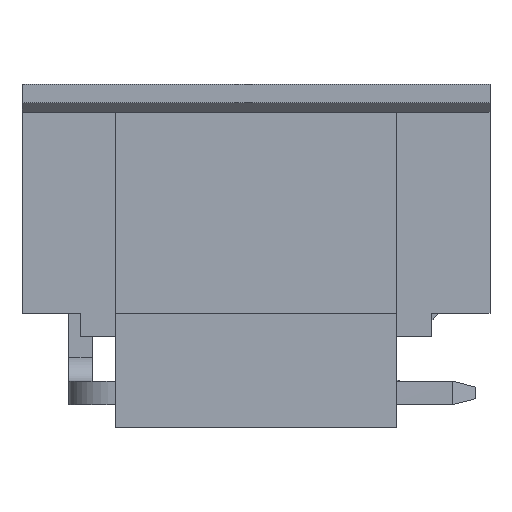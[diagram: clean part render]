
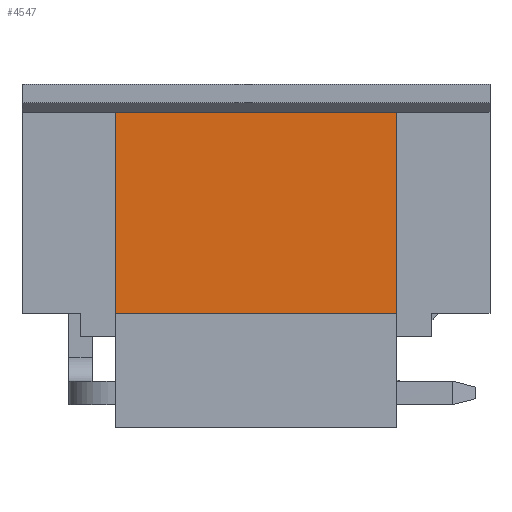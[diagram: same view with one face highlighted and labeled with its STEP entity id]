
A CAD part, front view. The second image highlights one B-rep face of the part: STEP entity #4547.
In plain terms, the highlighted free-form (B-spline) face has degree [1, 1] with [2, 2] control points.
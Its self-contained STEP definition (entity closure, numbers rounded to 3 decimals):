
#342 = B_SPLINE_SURFACE_WITH_KNOTS('',1,1,(
    (#343,#344)
    ,(#345,#346)),.UNSPECIFIED.,.F.,.F.,.F.,(2,2),(2,2),(0.,1.),(0.,1.),
  .PIECEWISE_BEZIER_KNOTS.);
#343 = CARTESIAN_POINT('',(-6.,5.028,8.038));
#344 = CARTESIAN_POINT('',(-6.,-12.248,8.038));
#345 = CARTESIAN_POINT('',(-6.,5.028,-9.238));
#346 = CARTESIAN_POINT('',(-6.,-12.248,-9.238));
#4173 = B_SPLINE_SURFACE_WITH_KNOTS('',1,1,(
    (#4174,#4175)
    ,(#4176,#4177
    )),.UNSPECIFIED.,.F.,.F.,.F.,(2,2),(2,2),(0.,1.),(0.,1.),
  .PIECEWISE_BEZIER_KNOTS.);
#4174 = CARTESIAN_POINT('',(10.371,6.221,6.15));
#4175 = CARTESIAN_POINT('',(-10.371,6.221,6.15));
#4176 = CARTESIAN_POINT('',(10.371,-14.521,6.15));
#4177 = CARTESIAN_POINT('',(-10.371,-14.521,6.15));
#4289 = EDGE_CURVE('',#4290,#4292,#4294,.T.);
#4290 = VERTEX_POINT('',#4291);
#4291 = CARTESIAN_POINT('',(6.,-6.1,6.15));
#4292 = VERTEX_POINT('',#4293);
#4293 = CARTESIAN_POINT('',(-6.,-6.1,6.15));
#4294 = SURFACE_CURVE('',#4295,(#4298,#4304),.PCURVE_S1.);
#4295 = B_SPLINE_CURVE_WITH_KNOTS('',1,(#4296,#4297),.UNSPECIFIED.,.F.,
  .F.,(2,2),(0.,1.),.PIECEWISE_BEZIER_KNOTS.);
#4296 = CARTESIAN_POINT('',(6.,-6.1,6.15));
#4297 = CARTESIAN_POINT('',(-6.,-6.1,6.15));
#4298 = PCURVE('',#4173,#4299);
#4299 = DEFINITIONAL_REPRESENTATION('',(#4300),#4303);
#4300 = B_SPLINE_CURVE_WITH_KNOTS('',1,(#4301,#4302),.UNSPECIFIED.,.F.,
  .F.,(2,2),(0.,1.),.PIECEWISE_BEZIER_KNOTS.);
#4301 = CARTESIAN_POINT('',(0.594,0.211));
#4302 = CARTESIAN_POINT('',(0.594,0.789));
#4303 = ( GEOMETRIC_REPRESENTATION_CONTEXT(2) 
PARAMETRIC_REPRESENTATION_CONTEXT() REPRESENTATION_CONTEXT('2D SPACE',''
  ) );
#4304 = PCURVE('',#4305,#4310);
#4305 = B_SPLINE_SURFACE_WITH_KNOTS('',1,1,(
    (#4306,#4307)
    ,(#4308,#4309
    )),.UNSPECIFIED.,.F.,.F.,.F.,(2,2),(2,2),(0.,1.),(0.,1.),
  .PIECEWISE_BEZIER_KNOTS.);
#4306 = CARTESIAN_POINT('',(7.382,-6.1,-5.532));
#4307 = CARTESIAN_POINT('',(-7.382,-6.1,-5.532));
#4308 = CARTESIAN_POINT('',(7.382,-6.1,9.232));
#4309 = CARTESIAN_POINT('',(-7.382,-6.1,9.232));
#4310 = DEFINITIONAL_REPRESENTATION('',(#4311),#4314);
#4311 = B_SPLINE_CURVE_WITH_KNOTS('',1,(#4312,#4313),.UNSPECIFIED.,.F.,
  .F.,(2,2),(0.,1.),.PIECEWISE_BEZIER_KNOTS.);
#4312 = CARTESIAN_POINT('',(0.791,0.094));
#4313 = CARTESIAN_POINT('',(0.791,0.906));
#4314 = ( GEOMETRIC_REPRESENTATION_CONTEXT(2) 
PARAMETRIC_REPRESENTATION_CONTEXT() REPRESENTATION_CONTEXT('2D SPACE',''
  ) );
#4330 = B_SPLINE_SURFACE_WITH_KNOTS('',1,1,(
    (#4331,#4332)
    ,(#4333,#4334
    )),.UNSPECIFIED.,.F.,.F.,.F.,(2,2),(2,2),(0.,1.),(0.,1.),
  .PIECEWISE_BEZIER_KNOTS.);
#4331 = CARTESIAN_POINT('',(6.,5.028,-9.238));
#4332 = CARTESIAN_POINT('',(6.,-12.248,-9.238));
#4333 = CARTESIAN_POINT('',(6.,5.028,8.038));
#4334 = CARTESIAN_POINT('',(6.,-12.248,8.038));
#4547 = ADVANCED_FACE('',(#4548),#4305,.T.);
#4548 = FACE_BOUND('',#4549,.T.);
#4549 = EDGE_LOOP('',(#4550,#4577,#4595,#4596));
#4550 = ORIENTED_EDGE('',*,*,#4551,.F.);
#4551 = EDGE_CURVE('',#4552,#4554,#4556,.T.);
#4552 = VERTEX_POINT('',#4553);
#4553 = CARTESIAN_POINT('',(6.,-6.1,-2.45));
#4554 = VERTEX_POINT('',#4555);
#4555 = CARTESIAN_POINT('',(-6.,-6.1,-2.45));
#4556 = SURFACE_CURVE('',#4557,(#4560,#4566),.PCURVE_S1.);
#4557 = B_SPLINE_CURVE_WITH_KNOTS('',1,(#4558,#4559),.UNSPECIFIED.,.F.,
  .F.,(2,2),(0.,1.),.PIECEWISE_BEZIER_KNOTS.);
#4558 = CARTESIAN_POINT('',(6.,-6.1,-2.45));
#4559 = CARTESIAN_POINT('',(-6.,-6.1,-2.45));
#4560 = PCURVE('',#4305,#4561);
#4561 = DEFINITIONAL_REPRESENTATION('',(#4562),#4565);
#4562 = B_SPLINE_CURVE_WITH_KNOTS('',1,(#4563,#4564),.UNSPECIFIED.,.F.,
  .F.,(2,2),(0.,1.),.PIECEWISE_BEZIER_KNOTS.);
#4563 = CARTESIAN_POINT('',(0.209,0.094));
#4564 = CARTESIAN_POINT('',(0.209,0.906));
#4565 = ( GEOMETRIC_REPRESENTATION_CONTEXT(2) 
PARAMETRIC_REPRESENTATION_CONTEXT() REPRESENTATION_CONTEXT('2D SPACE',''
  ) );
#4566 = PCURVE('',#4567,#4572);
#4567 = B_SPLINE_SURFACE_WITH_KNOTS('',1,1,(
    (#4568,#4569)
    ,(#4570,#4571
    )),.UNSPECIFIED.,.F.,.F.,.F.,(2,2),(2,2),(0.,1.),(0.,1.),
  .PIECEWISE_BEZIER_KNOTS.);
#4568 = CARTESIAN_POINT('',(-6.173,-1.377,-2.45));
#4569 = CARTESIAN_POINT('',(6.173,-1.377,-2.45));
#4570 = CARTESIAN_POINT('',(-6.173,-13.723,-2.45));
#4571 = CARTESIAN_POINT('',(6.173,-13.723,-2.45));
#4572 = DEFINITIONAL_REPRESENTATION('',(#4573),#4576);
#4573 = B_SPLINE_CURVE_WITH_KNOTS('',1,(#4574,#4575),.UNSPECIFIED.,.F.,
  .F.,(2,2),(0.,1.),.PIECEWISE_BEZIER_KNOTS.);
#4574 = CARTESIAN_POINT('',(0.383,0.986));
#4575 = CARTESIAN_POINT('',(0.383,0.014));
#4576 = ( GEOMETRIC_REPRESENTATION_CONTEXT(2) 
PARAMETRIC_REPRESENTATION_CONTEXT() REPRESENTATION_CONTEXT('2D SPACE',''
  ) );
#4577 = ORIENTED_EDGE('',*,*,#4578,.T.);
#4578 = EDGE_CURVE('',#4552,#4290,#4579,.T.);
#4579 = SURFACE_CURVE('',#4580,(#4583,#4589),.PCURVE_S1.);
#4580 = B_SPLINE_CURVE_WITH_KNOTS('',1,(#4581,#4582),.UNSPECIFIED.,.F.,
  .F.,(2,2),(0.,1.),.PIECEWISE_BEZIER_KNOTS.);
#4581 = CARTESIAN_POINT('',(6.,-6.1,-2.45));
#4582 = CARTESIAN_POINT('',(6.,-6.1,6.15));
#4583 = PCURVE('',#4305,#4584);
#4584 = DEFINITIONAL_REPRESENTATION('',(#4585),#4588);
#4585 = B_SPLINE_CURVE_WITH_KNOTS('',1,(#4586,#4587),.UNSPECIFIED.,.F.,
  .F.,(2,2),(0.,1.),.PIECEWISE_BEZIER_KNOTS.);
#4586 = CARTESIAN_POINT('',(0.209,0.094));
#4587 = CARTESIAN_POINT('',(0.791,0.094));
#4588 = ( GEOMETRIC_REPRESENTATION_CONTEXT(2) 
PARAMETRIC_REPRESENTATION_CONTEXT() REPRESENTATION_CONTEXT('2D SPACE',''
  ) );
#4589 = PCURVE('',#4330,#4590);
#4590 = DEFINITIONAL_REPRESENTATION('',(#4591),#4594);
#4591 = B_SPLINE_CURVE_WITH_KNOTS('',1,(#4592,#4593),.UNSPECIFIED.,.F.,
  .F.,(2,2),(0.,1.),.PIECEWISE_BEZIER_KNOTS.);
#4592 = CARTESIAN_POINT('',(0.393,0.644));
#4593 = CARTESIAN_POINT('',(0.891,0.644));
#4594 = ( GEOMETRIC_REPRESENTATION_CONTEXT(2) 
PARAMETRIC_REPRESENTATION_CONTEXT() REPRESENTATION_CONTEXT('2D SPACE',''
  ) );
#4595 = ORIENTED_EDGE('',*,*,#4289,.T.);
#4596 = ORIENTED_EDGE('',*,*,#4597,.F.);
#4597 = EDGE_CURVE('',#4554,#4292,#4598,.T.);
#4598 = SURFACE_CURVE('',#4599,(#4602,#4608),.PCURVE_S1.);
#4599 = B_SPLINE_CURVE_WITH_KNOTS('',1,(#4600,#4601),.UNSPECIFIED.,.F.,
  .F.,(2,2),(0.,1.),.PIECEWISE_BEZIER_KNOTS.);
#4600 = CARTESIAN_POINT('',(-6.,-6.1,-2.45));
#4601 = CARTESIAN_POINT('',(-6.,-6.1,6.15));
#4602 = PCURVE('',#4305,#4603);
#4603 = DEFINITIONAL_REPRESENTATION('',(#4604),#4607);
#4604 = B_SPLINE_CURVE_WITH_KNOTS('',1,(#4605,#4606),.UNSPECIFIED.,.F.,
  .F.,(2,2),(0.,1.),.PIECEWISE_BEZIER_KNOTS.);
#4605 = CARTESIAN_POINT('',(0.209,0.906));
#4606 = CARTESIAN_POINT('',(0.791,0.906));
#4607 = ( GEOMETRIC_REPRESENTATION_CONTEXT(2) 
PARAMETRIC_REPRESENTATION_CONTEXT() REPRESENTATION_CONTEXT('2D SPACE',''
  ) );
#4608 = PCURVE('',#342,#4609);
#4609 = DEFINITIONAL_REPRESENTATION('',(#4610),#4613);
#4610 = B_SPLINE_CURVE_WITH_KNOTS('',1,(#4611,#4612),.UNSPECIFIED.,.F.,
  .F.,(2,2),(0.,1.),.PIECEWISE_BEZIER_KNOTS.);
#4611 = CARTESIAN_POINT('',(0.607,0.644));
#4612 = CARTESIAN_POINT('',(0.109,0.644));
#4613 = ( GEOMETRIC_REPRESENTATION_CONTEXT(2) 
PARAMETRIC_REPRESENTATION_CONTEXT() REPRESENTATION_CONTEXT('2D SPACE',''
  ) );
